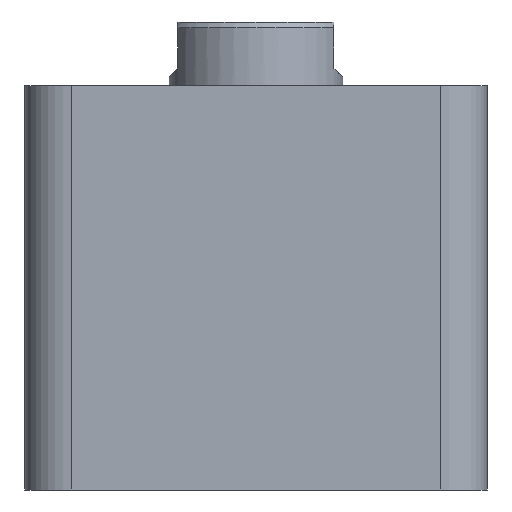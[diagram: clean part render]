
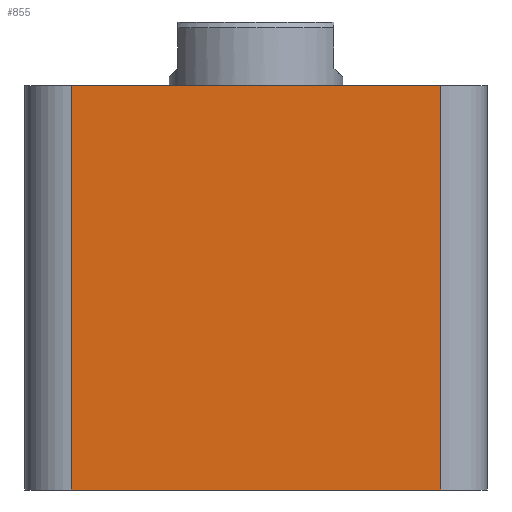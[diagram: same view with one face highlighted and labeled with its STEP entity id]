
A CAD part, front view. The second image highlights one B-rep face of the part: STEP entity #855.
In plain terms, the highlighted planar face has unit normal (0, -1, 0).
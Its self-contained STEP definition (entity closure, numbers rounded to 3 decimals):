
#105 = AXIS2_PLACEMENT_3D ( 'NONE', #2332, #2322, #2321 ) ;
#129 = ORIENTED_EDGE ( 'NONE', *, *, #981, .T. ) ;
#130 = ORIENTED_EDGE ( 'NONE', *, *, #982, .T. ) ;
#445 = ORIENTED_EDGE ( 'NONE', *, *, #977, .F. ) ;
#447 = ORIENTED_EDGE ( 'NONE', *, *, #980, .T. ) ;
#457 = VERTEX_POINT ( 'NONE', #2423 ) ;
#465 = VERTEX_POINT ( 'NONE', #2364 ) ;
#530 = VERTEX_POINT ( 'NONE', #2120 ) ;
#570 = VERTEX_POINT ( 'NONE', #2639 ) ;
#855 = ADVANCED_FACE ( 'NONE', ( #1226 ), #2325, .F. ) ;
#977 = EDGE_CURVE ( 'NONE', #457, #530, #1246, .T. ) ;
#980 = EDGE_CURVE ( 'NONE', #457, #570, #1234, .T. ) ;
#981 = EDGE_CURVE ( 'NONE', #570, #465, #1250, .T. ) ;
#982 = EDGE_CURVE ( 'NONE', #465, #530, #1227, .T. ) ;
#1222 = VECTOR ( 'NONE', #1898, 1000. ) ;
#1225 = VECTOR ( 'NONE', #1900, 1000. ) ;
#1226 = FACE_OUTER_BOUND ( 'NONE', #1535, .T. ) ;
#1227 = LINE ( 'NONE', #1899, #1222 ) ;
#1229 = VECTOR ( 'NONE', #1932, 1000. ) ;
#1234 = LINE ( 'NONE', #1914, #1229 ) ;
#1240 = VECTOR ( 'NONE', #1910, 1000. ) ;
#1246 = LINE ( 'NONE', #1911, #1240 ) ;
#1250 = LINE ( 'NONE', #1907, #1225 ) ;
#1535 = EDGE_LOOP ( 'NONE', ( #445, #447, #129, #130 ) ) ;
#1898 = DIRECTION ( 'NONE',  ( 0., 0., 1. ) ) ;
#1899 = CARTESIAN_POINT ( 'NONE',  ( 32., -40., 70. ) ) ;
#1900 = DIRECTION ( 'NONE',  ( 1., 0., 0. ) ) ;
#1907 = CARTESIAN_POINT ( 'NONE',  ( -40., -40., 0. ) ) ;
#1910 = DIRECTION ( 'NONE',  ( 1., 0., 0. ) ) ;
#1911 = CARTESIAN_POINT ( 'NONE',  ( -40., -40., 70. ) ) ;
#1914 = CARTESIAN_POINT ( 'NONE',  ( -32., -40., 70. ) ) ;
#1932 = DIRECTION ( 'NONE',  ( 0., 0., -1. ) ) ;
#2120 = CARTESIAN_POINT ( 'NONE',  ( 32., -40., 70. ) ) ;
#2321 = DIRECTION ( 'NONE',  ( 0., 0., 1. ) ) ;
#2322 = DIRECTION ( 'NONE',  ( 0., 1., 0. ) ) ;
#2325 = PLANE ( 'NONE',  #105 ) ;
#2332 = CARTESIAN_POINT ( 'NONE',  ( -40., -40., 70. ) ) ;
#2364 = CARTESIAN_POINT ( 'NONE',  ( 32., -40., 0. ) ) ;
#2423 = CARTESIAN_POINT ( 'NONE',  ( -32., -40., 70. ) ) ;
#2639 = CARTESIAN_POINT ( 'NONE',  ( -32., -40., 0. ) ) ;
